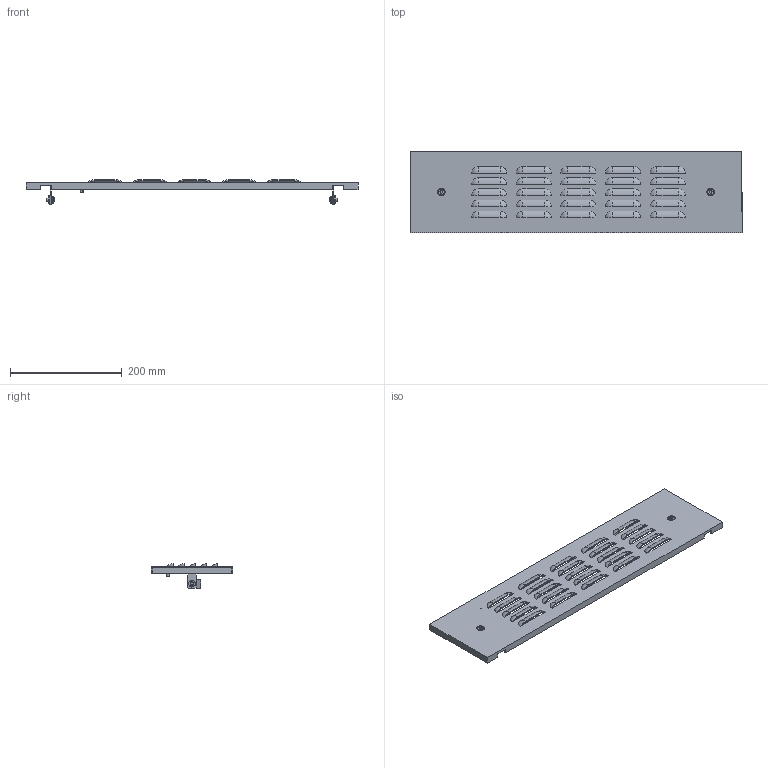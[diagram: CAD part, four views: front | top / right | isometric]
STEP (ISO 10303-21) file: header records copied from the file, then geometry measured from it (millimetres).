
FILE_DESCRIPTION (( 'STEP AP214' ), '1' );
FILE_NAME ('FO-00-PWSV-015-060 Ôàëüø-ïàíåëü âíåøíÿÿ âåíòèëèðóåìàÿ 150õ600 ìì.STEP', '2025-08-25T07:11:34', ( '' ), ( '' ), 'SwSTEP 2.0', 'SolidWorks 2023', '' );
FILE_SCHEMA (( 'AUTOMOTIVE_DESIGN' ));
Length unit declared in the file: millimetre
Products named in the file (1): FO-00-PWSV-015-060 Фальш-панель внешняя вентилируемая 150х600 мм
Bounding box: 595 x 146 x 43.5 mm (x, y, z)
Volume: 260192 mm3; surface area: 232069.3 mm2
Topology: 1 solids, 6 shells, 743 faces, 1876 edges, 1159 vertices
Faces by surface type: plane 347, cylinder 242, sphere 100, cone 34, torus 20
Entity records: 22635 total; most frequent: DIRECTION 4134, CARTESIAN_POINT 4071, ORIENTED_EDGE 3748, EDGE_CURVE 1874, AXIS2_PLACEMENT_3D 1532, VERTEX_POINT 1159, LINE 1070, VECTOR 1070
